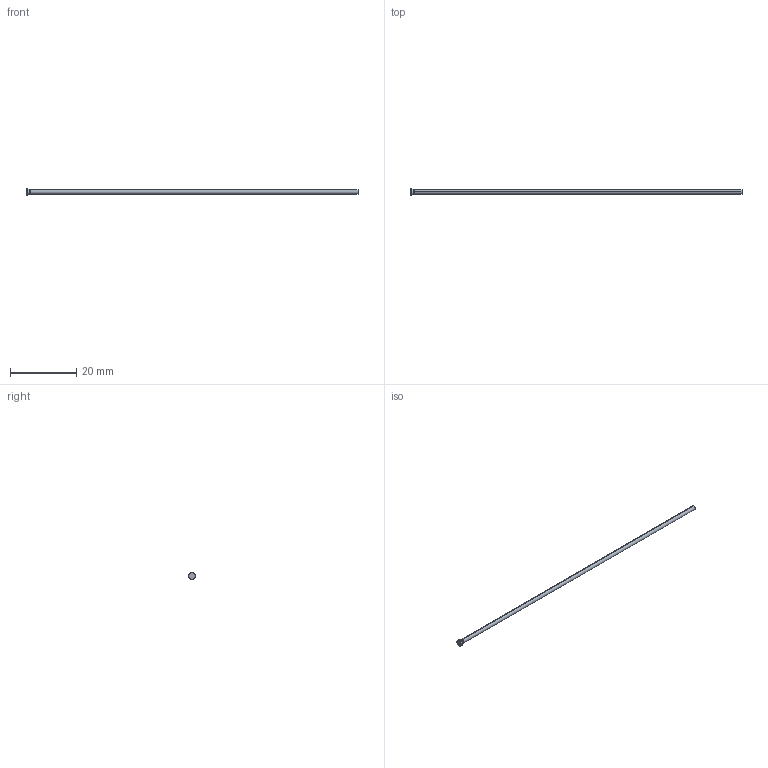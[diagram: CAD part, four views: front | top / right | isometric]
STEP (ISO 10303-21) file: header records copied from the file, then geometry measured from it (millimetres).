
FILE_DESCRIPTION (( 'STEP AP214' ), '1' );
FILE_NAME ('D-1,25x100.STEP', '2020-06-08T09:45:06', ( 'August' ), ( '' ), 'SwSTEP 2.0', 'SolidWorks 2018', '' );
FILE_SCHEMA (( 'AUTOMOTIVE_DESIGN' ));
Length unit declared in the file: millimetre
Products named in the file (1): D-1,25x100
Bounding box: 100 x 2 x 2 mm (x, y, z)
Volume: 124.3 mm3; surface area: 399.5 mm2
Topology: 1 solids, 1 shells, 10 faces, 18 edges, 10 vertices
Faces by surface type: cylinder 4, torus 2, cone 2, plane 2
Entity records: 280 total; most frequent: DIRECTION 52, CARTESIAN_POINT 39, ORIENTED_EDGE 36, AXIS2_PLACEMENT_3D 23, EDGE_CURVE 18, CIRCLE 12, EDGE_LOOP 10, VERTEX_POINT 10
